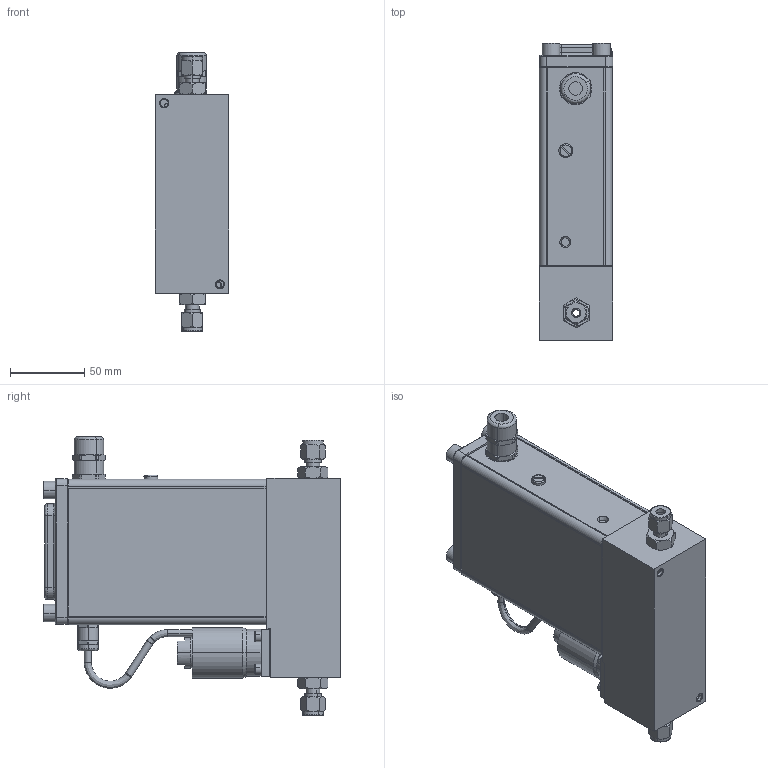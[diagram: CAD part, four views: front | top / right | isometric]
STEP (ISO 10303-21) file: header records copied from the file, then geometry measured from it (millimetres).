
FILE_DESCRIPTION (( 'STEP AP203' ), '1' );
FILE_NAME ('SLAMF50-S-1B-1-G-RevB.STEP', '2019-06-19T19:39:56', ( '' ), ( '' ), 'SwSTEP 2.0', 'SolidWorks 2019', '' );
FILE_SCHEMA (( 'CONFIG_CONTROL_DESIGN' ));
Length unit declared in the file: inch
Products named in the file (1): SLAMF50-S-1B-1-G-RevB
Bounding box: 49.67 x 199.98 x 187.78 mm (x, y, z)
Volume: 453108.7 mm3; surface area: 202120.8 mm2
Topology: 39 solids, 39 shells, 926 faces, 2166 edges, 1361 vertices
Faces by surface type: cylinder 352, plane 347, cone 144, bspline 83
Entity records: 29347 total; most frequent: CARTESIAN_POINT 7849, DIRECTION 4596, ORIENTED_EDGE 4320, EDGE_CURVE 2160, AXIS2_PLACEMENT_3D 1800, VERTEX_POINT 1361, EDGE_LOOP 1095, VECTOR 996
